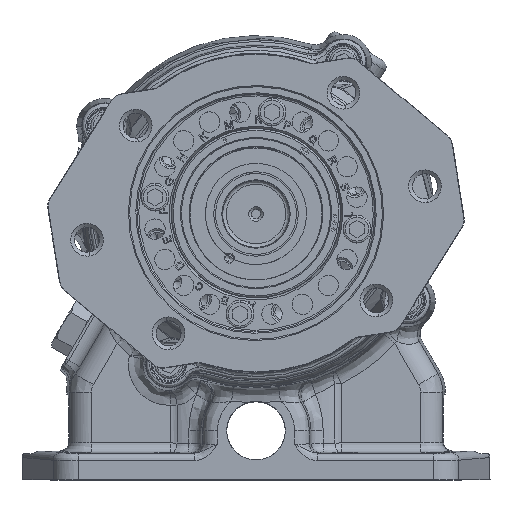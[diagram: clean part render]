
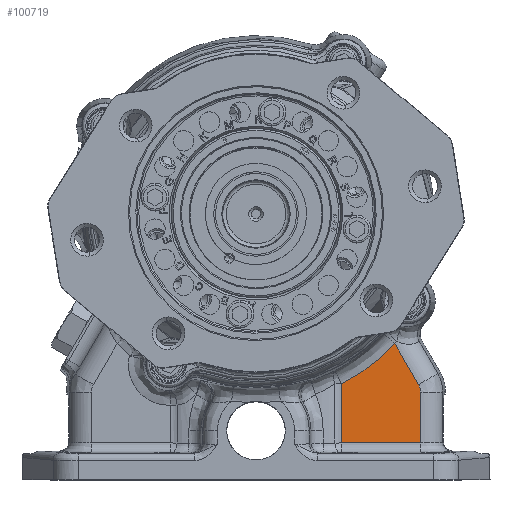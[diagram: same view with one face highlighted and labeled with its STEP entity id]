
A CAD part, top view. The second image highlights one B-rep face of the part: STEP entity #100719.
In plain terms, the highlighted planar face has unit normal (0, 0, 1).
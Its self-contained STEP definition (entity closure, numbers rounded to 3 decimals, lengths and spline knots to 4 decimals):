
#35 = DIRECTION ( 'NONE',  ( 1., 0., 0. ) ) ;
#528 = CARTESIAN_POINT ( 'NONE',  ( -1.4346, 1.4946, 8.2659 ) ) ;
#6678 = VERTEX_POINT ( 'NONE', #136727 ) ;
#12145 = CARTESIAN_POINT ( 'NONE',  ( -1.468, 1.5975, 8.2659 ) ) ;
#13425 = ORIENTED_EDGE ( 'NONE', *, *, #104556, .T. ) ;
#18748 = VERTEX_POINT ( 'NONE', #159716 ) ;
#20896 = ORIENTED_EDGE ( 'NONE', *, *, #29110, .T. ) ;
#21758 = VECTOR ( 'NONE', #64430, 39.3701 ) ;
#29110 = EDGE_CURVE ( 'NONE', #56771, #138380, #65645, .T. ) ;
#36990 = DIRECTION ( 'NONE',  ( 1., 0., 0. ) ) ;
#38004 = LINE ( 'NONE', #116806, #39181 ) ;
#39181 = VECTOR ( 'NONE', #36990, 39.3701 ) ;
#45609 = ORIENTED_EDGE ( 'NONE', *, *, #175986, .T. ) ;
#46742 = CARTESIAN_POINT ( 'NONE',  ( -1.4346, 1.4727, 8.2659 ) ) ;
#52210 = FACE_OUTER_BOUND ( 'NONE', #199815, .T. ) ;
#56771 = VERTEX_POINT ( 'NONE', #113711 ) ;
#60876 = CARTESIAN_POINT ( 'NONE',  ( -2.1327, 2.02, 8.2659 ) ) ;
#60995 = PLANE ( 'NONE',  #184750 ) ;
#63553 = CARTESIAN_POINT ( 'NONE',  ( -1.4487, 1.5585, 8.2659 ) ) ;
#64430 = DIRECTION ( 'NONE',  ( -0.5, 0.866, 0. ) ) ;
#64592 = CARTESIAN_POINT ( 'NONE',  ( -1.4374, 1.5161, 8.2659 ) ) ;
#65645 = LINE ( 'NONE', #79306, #92002 ) ;
#70990 = B_SPLINE_CURVE_WITH_KNOTS ( 'NONE', 3,
 ( #46742, #528, #64592, #63553, #128639, #12145 ),
 .UNSPECIFIED., .F., .F.,
 ( 4, 2, 4 ),
 ( 0., 0.5, 1. ),
 .UNSPECIFIED. ) ;
#74855 = EDGE_CURVE ( 'NONE', #18748, #136831, #106769, .T. ) ;
#79306 = CARTESIAN_POINT ( 'NONE',  ( -2.7633, 4.4727, 8.2659 ) ) ;
#92002 = VECTOR ( 'NONE', #129698, 39.3701 ) ;
#100719 = ADVANCED_FACE ( 'NONE', ( #52210 ), #60995, .T. ) ;
#104556 = EDGE_CURVE ( 'NONE', #136831, #56771, #179304, .T. ) ;
#106769 = LINE ( 'NONE', #170834, #21758 ) ;
#112350 = LINE ( 'NONE', #193212, #171151 ) ;
#113711 = CARTESIAN_POINT ( 'NONE',  ( -2.7633, 1.6109, 8.2659 ) ) ;
#116806 = CARTESIAN_POINT ( 'NONE',  ( -4.2, 0.6166, 8.2659 ) ) ;
#119315 = DIRECTION ( 'NONE',  ( 0., 1., 0. ) ) ;
#120355 = EDGE_CURVE ( 'NONE', #6678, #18748, #70990, .T. ) ;
#121816 = CARTESIAN_POINT ( 'NONE',  ( -1.8637, 2.2828, 8.2659 ) ) ;
#122836 = ORIENTED_EDGE ( 'NONE', *, *, #120355, .T. ) ;
#123641 = VERTEX_POINT ( 'NONE', #170063 ) ;
#124924 = CARTESIAN_POINT ( 'NONE',  ( -2.4349, 1.7943, 8.2659 ) ) ;
#126078 = DIRECTION ( 'NONE',  ( 0., 0., 1. ) ) ;
#128639 = CARTESIAN_POINT ( 'NONE',  ( -1.4571, 1.5785, 8.2659 ) ) ;
#129698 = DIRECTION ( 'NONE',  ( 0., -1., 0. ) ) ;
#133293 = CARTESIAN_POINT ( 'NONE',  ( -2.7633, 0.6166, 8.2659 ) ) ;
#136727 = CARTESIAN_POINT ( 'NONE',  ( -1.4346, 1.4727, 8.2659 ) ) ;
#136831 = VERTEX_POINT ( 'NONE', #139596 ) ;
#138380 = VERTEX_POINT ( 'NONE', #133293 ) ;
#139596 = CARTESIAN_POINT ( 'NONE',  ( -1.8637, 2.2828, 8.2659 ) ) ;
#142586 = ORIENTED_EDGE ( 'NONE', *, *, #161448, .T. ) ;
#154652 = ORIENTED_EDGE ( 'NONE', *, *, #74855, .T. ) ;
#159716 = CARTESIAN_POINT ( 'NONE',  ( -1.468, 1.5975, 8.2659 ) ) ;
#161448 = EDGE_CURVE ( 'NONE', #123641, #6678, #112350, .T. ) ;
#170063 = CARTESIAN_POINT ( 'NONE',  ( -1.4346, 0.6166, 8.2659 ) ) ;
#170834 = CARTESIAN_POINT ( 'NONE',  ( -1.468, 1.5975, 8.2659 ) ) ;
#171151 = VECTOR ( 'NONE', #119315, 39.3701 ) ;
#175986 = EDGE_CURVE ( 'NONE', #138380, #123641, #38004, .T. ) ;
#179304 = B_SPLINE_CURVE_WITH_KNOTS ( 'NONE', 3,
 ( #121816, #184856, #60876, #124924, #185902, #189002 ),
 .UNSPECIFIED., .F., .F.,
 ( 4, 2, 4 ),
 ( 0., 0.5, 1. ),
 .UNSPECIFIED. ) ;
#184750 = AXIS2_PLACEMENT_3D ( 'NONE', #192228, #126078, #35 ) ;
#184856 = CARTESIAN_POINT ( 'NONE',  ( -1.9926, 2.1452, 8.2659 ) ) ;
#185902 = CARTESIAN_POINT ( 'NONE',  ( -2.5947, 1.6955, 8.2659 ) ) ;
#189002 = CARTESIAN_POINT ( 'NONE',  ( -2.7633, 1.6109, 8.2659 ) ) ;
#192228 = CARTESIAN_POINT ( 'NONE',  ( -4.2, 4.4727, 8.2659 ) ) ;
#193212 = CARTESIAN_POINT ( 'NONE',  ( -1.4346, 4.4727, 8.2659 ) ) ;
#199815 = EDGE_LOOP ( 'NONE', ( #142586, #122836, #154652, #13425, #20896, #45609 ) ) ;
